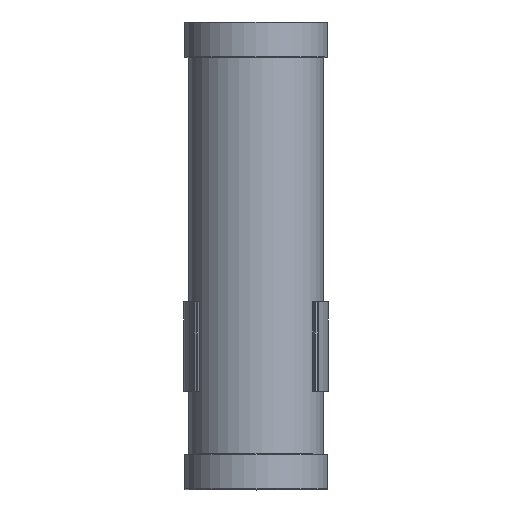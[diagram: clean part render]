
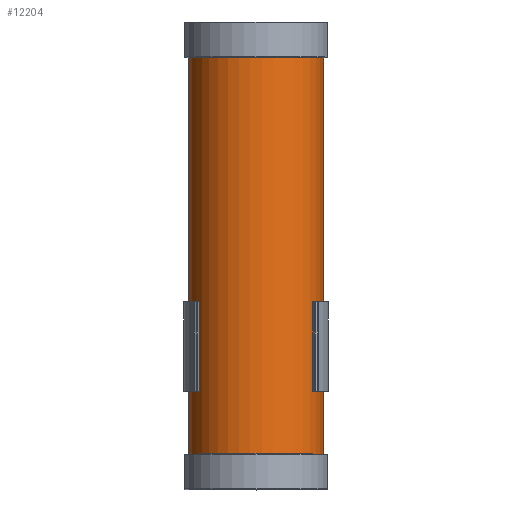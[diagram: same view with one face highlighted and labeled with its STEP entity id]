
A CAD part, top view. The second image highlights one B-rep face of the part: STEP entity #12204.
In plain terms, the highlighted cylindrical face has radius 15 mm (diameter 30 mm), a partial arc.
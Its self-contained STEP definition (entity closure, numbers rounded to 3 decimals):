
#1339=FACE_OUTER_BOUND('',#2164,.T.);
#2164=EDGE_LOOP('',(#10219,#10220,#10221,#10222));
#2913=CIRCLE('',#13612,15.);
#2924=CIRCLE('',#13631,15.);
#4083=LINE('',#23288,#4809);
#4103=LINE('',#23351,#4829);
#4809=VECTOR('',#16555,10.);
#4829=VECTOR('',#16617,10.);
#5697=VERTEX_POINT('',#23285);
#5698=VERTEX_POINT('',#23287);
#5702=VERTEX_POINT('',#23299);
#5720=VERTEX_POINT('',#23349);
#7223=EDGE_CURVE('',#5697,#5698,#4083,.T.);
#7229=EDGE_CURVE('',#5702,#5698,#2913,.T.);
#7255=EDGE_CURVE('',#5702,#5720,#4103,.T.);
#7256=EDGE_CURVE('',#5720,#5697,#2924,.T.);
#10219=ORIENTED_EDGE('',*,*,#7223,.F.);
#10220=ORIENTED_EDGE('',*,*,#7256,.F.);
#10221=ORIENTED_EDGE('',*,*,#7255,.F.);
#10222=ORIENTED_EDGE('',*,*,#7229,.T.);
#11614=CYLINDRICAL_SURFACE('',#13630,15.);
#12204=ADVANCED_FACE('',(#1339),#11614,.T.);
#13612=AXIS2_PLACEMENT_3D('',#23300,#16566,#16567);
#13630=AXIS2_PLACEMENT_3D('',#23352,#16618,#16619);
#13631=AXIS2_PLACEMENT_3D('',#23353,#16620,#16621);
#16555=DIRECTION('',(0.,-1.,0.));
#16566=DIRECTION('center_axis',(0.,1.,0.));
#16567=DIRECTION('ref_axis',(1.,0.,0.));
#16617=DIRECTION('',(0.,1.,0.));
#16618=DIRECTION('center_axis',(0.,1.,0.));
#16619=DIRECTION('ref_axis',(0.,0.,1.));
#16620=DIRECTION('center_axis',(0.,1.,0.));
#16621=DIRECTION('ref_axis',(1.,0.,0.));
#23285=CARTESIAN_POINT('',(11.227,100.,-9.948));
#23287=CARTESIAN_POINT('',(11.227,0.,-9.948));
#23288=CARTESIAN_POINT('',(11.227,0.,-9.948));
#23299=CARTESIAN_POINT('',(-11.227,0.,-9.948));
#23300=CARTESIAN_POINT('Origin',(0.,0.,0.));
#23349=CARTESIAN_POINT('',(-11.227,100.,-9.948));
#23351=CARTESIAN_POINT('',(-11.227,0.,-9.948));
#23352=CARTESIAN_POINT('Origin',(0.,0.,0.));
#23353=CARTESIAN_POINT('Origin',(0.,100.,0.));
